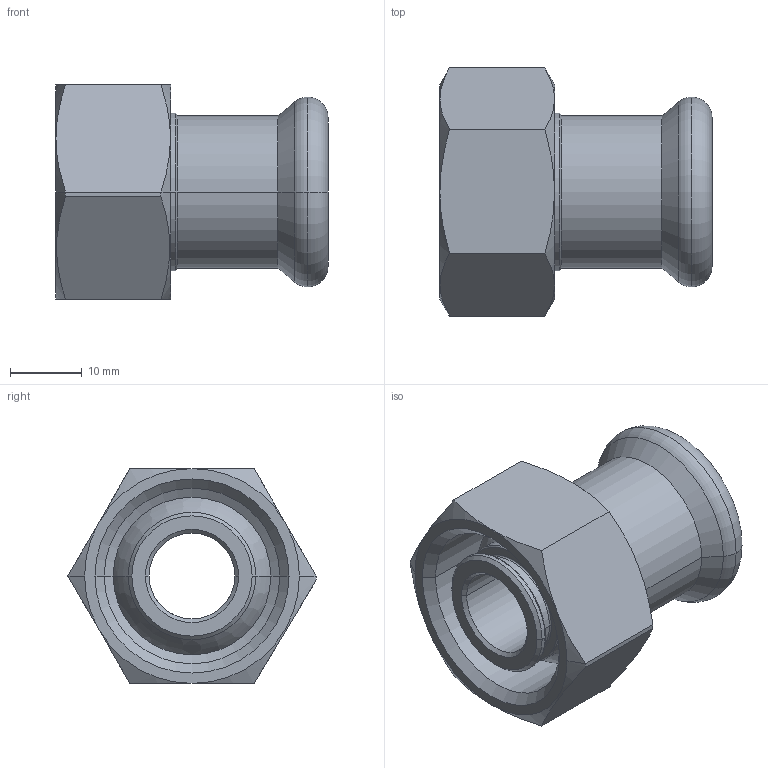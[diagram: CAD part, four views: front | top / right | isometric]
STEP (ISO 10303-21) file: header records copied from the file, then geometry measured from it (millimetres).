
FILE_DESCRIPTION(('CoCreate Modeling STEP Export'),'2;1');
FILE_NAME('C1404 18x3-4 euroconus.stp','2014-11-07T14:13:01',(''),(''),'CoCreate Modeling STEP processor for AP214 (Solid Model)','CoCreate Modeling 17.00A 17-Jun-2010 (C) Parametric Technology GmbH','');
FILE_SCHEMA(('AUTOMOTIVE_DESIGN { 1 0 10303 214 1 1 1 1 }'));
Length unit declared in the file: millimetre
Products named in the file (1): C1404_18x¾_euroconus
Bounding box: 38 x 34.64 x 30 mm (x, y, z)
Volume: 11143.4 mm3; surface area: 8402.9 mm2
Topology: 1 solids, 1 shells, 85 faces, 178 edges, 101 vertices
Faces by surface type: cone 30, cylinder 25, torus 16, plane 14
Entity records: 2708 total; most frequent: CARTESIAN_POINT 1180, ORIENTED_EDGE 356, DIRECTION 251, EDGE_CURVE 178, VERTEX_POINT 101, AXIS2_PLACEMENT_3D 100, EDGE_LOOP 93, FACE_OUTER_BOUND 85
